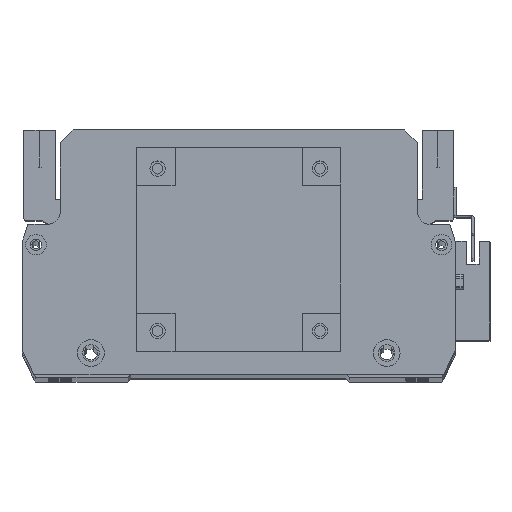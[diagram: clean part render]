
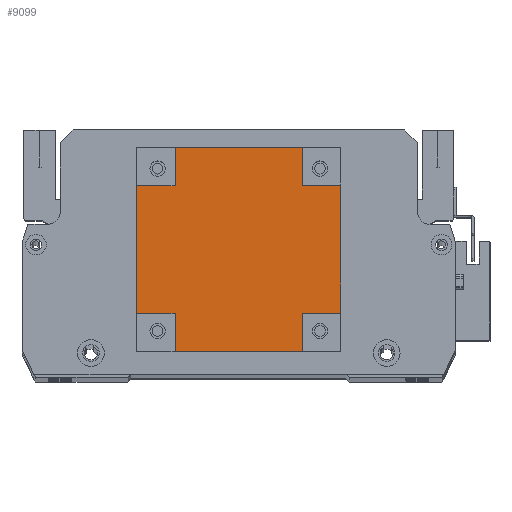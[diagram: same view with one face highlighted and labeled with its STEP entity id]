
A CAD part, top view. The second image highlights one B-rep face of the part: STEP entity #9099.
In plain terms, the highlighted planar face has unit normal (0, 0, 1).
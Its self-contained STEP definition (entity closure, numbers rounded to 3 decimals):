
#277 = LINE ( 'NONE', #11243, #5199 ) ;
#880 = VERTEX_POINT ( 'NONE', #10452 ) ;
#987 = ORIENTED_EDGE ( 'NONE', *, *, #25563, .T. ) ;
#1541 = VECTOR ( 'NONE', #18807, 1000. ) ;
#1737 = CARTESIAN_POINT ( 'NONE',  ( 15., 0., 101.5 ) ) ;
#1740 = ORIENTED_EDGE ( 'NONE', *, *, #14263, .F. ) ;
#1917 = LINE ( 'NONE', #7176, #17540 ) ;
#2421 = DIRECTION ( 'NONE',  ( 0., 1., 0. ) ) ;
#2752 = DIRECTION ( 'NONE',  ( 0., 1., 0. ) ) ;
#3201 = VECTOR ( 'NONE', #13321, 1000. ) ;
#3495 = VECTOR ( 'NONE', #23839, 1000. ) ;
#3705 = ORIENTED_EDGE ( 'NONE', *, *, #19763, .F. ) ;
#4436 = ORIENTED_EDGE ( 'NONE', *, *, #24702, .F. ) ;
#4590 = PLANE ( 'NONE',  #26104 ) ;
#5158 = EDGE_LOOP ( 'NONE', ( #987, #14892, #22001, #12914, #4436, #15545, #8103, #8413, #8115, #15445, #3705, #1740 ) ) ;
#5163 = EDGE_CURVE ( 'NONE', #6745, #880, #25940, .T. ) ;
#5199 = VECTOR ( 'NONE', #13207, 1000. ) ;
#6264 = LINE ( 'NONE', #6388, #23737 ) ;
#6388 = CARTESIAN_POINT ( 'NONE',  ( 65., 0., 101.5 ) ) ;
#6745 = VERTEX_POINT ( 'NONE', #12431 ) ;
#7048 = EDGE_CURVE ( 'NONE', #16321, #18424, #19026, .T. ) ;
#7176 = CARTESIAN_POINT ( 'NONE',  ( 0., 15., 101.5 ) ) ;
#7848 = VERTEX_POINT ( 'NONE', #20687 ) ;
#8103 = ORIENTED_EDGE ( 'NONE', *, *, #26269, .T. ) ;
#8115 = ORIENTED_EDGE ( 'NONE', *, *, #7048, .F. ) ;
#8269 = VERTEX_POINT ( 'NONE', #17927 ) ;
#8413 = ORIENTED_EDGE ( 'NONE', *, *, #8430, .F. ) ;
#8430 = EDGE_CURVE ( 'NONE', #18424, #10707, #6264, .T. ) ;
#8704 = CARTESIAN_POINT ( 'NONE',  ( 0., 0., 101.5 ) ) ;
#9099 = ADVANCED_FACE ( 'NONE', ( #15107 ), #4590, .F. ) ;
#9173 = VECTOR ( 'NONE', #2752, 1000. ) ;
#9214 = DIRECTION ( 'NONE',  ( 1., 0., 0. ) ) ;
#9904 = LINE ( 'NONE', #16667, #16526 ) ;
#10452 = CARTESIAN_POINT ( 'NONE',  ( 15., 80., 101.5 ) ) ;
#10707 = VERTEX_POINT ( 'NONE', #16441 ) ;
#10739 = DIRECTION ( 'NONE',  ( -1., 0., 0. ) ) ;
#10978 = CARTESIAN_POINT ( 'NONE',  ( 15., 80., 101.5 ) ) ;
#11243 = CARTESIAN_POINT ( 'NONE',  ( 65., 80., 101.5 ) ) ;
#11615 = VERTEX_POINT ( 'NONE', #13239 ) ;
#11708 = CARTESIAN_POINT ( 'NONE',  ( 65., 15., 101.5 ) ) ;
#12326 = VERTEX_POINT ( 'NONE', #13651 ) ;
#12429 = EDGE_CURVE ( 'NONE', #15759, #7848, #16572, .T. ) ;
#12431 = CARTESIAN_POINT ( 'NONE',  ( 15., 65., 101.5 ) ) ;
#12479 = DIRECTION ( 'NONE',  ( 0., -1., 0. ) ) ;
#12914 = ORIENTED_EDGE ( 'NONE', *, *, #12949, .T. ) ;
#12949 = EDGE_CURVE ( 'NONE', #25779, #19479, #22581, .T. ) ;
#13075 = CARTESIAN_POINT ( 'NONE',  ( 80., 15., 101.5 ) ) ;
#13207 = DIRECTION ( 'NONE',  ( 0., -1., 0. ) ) ;
#13239 = CARTESIAN_POINT ( 'NONE',  ( 65., 80., 101.5 ) ) ;
#13283 = VECTOR ( 'NONE', #17174, 1000. ) ;
#13321 = DIRECTION ( 'NONE',  ( -1., 0., 0. ) ) ;
#13612 = EDGE_CURVE ( 'NONE', #16321, #8269, #9904, .T. ) ;
#13651 = CARTESIAN_POINT ( 'NONE',  ( 65., 65., 101.5 ) ) ;
#13920 = LINE ( 'NONE', #23299, #13283 ) ;
#14098 = VECTOR ( 'NONE', #9214, 1000. ) ;
#14263 = EDGE_CURVE ( 'NONE', #11615, #12326, #277, .T. ) ;
#14892 = ORIENTED_EDGE ( 'NONE', *, *, #5163, .F. ) ;
#15107 = FACE_OUTER_BOUND ( 'NONE', #5158, .T. ) ;
#15167 = CARTESIAN_POINT ( 'NONE',  ( 15., 0., 101.5 ) ) ;
#15232 = LINE ( 'NONE', #21448, #3201 ) ;
#15445 = ORIENTED_EDGE ( 'NONE', *, *, #13612, .T. ) ;
#15545 = ORIENTED_EDGE ( 'NONE', *, *, #12429, .F. ) ;
#15759 = VERTEX_POINT ( 'NONE', #15167 ) ;
#15833 = CARTESIAN_POINT ( 'NONE',  ( 0., 0., 101.5 ) ) ;
#16321 = VERTEX_POINT ( 'NONE', #13075 ) ;
#16441 = CARTESIAN_POINT ( 'NONE',  ( 65., 0., 101.5 ) ) ;
#16526 = VECTOR ( 'NONE', #2421, 1000. ) ;
#16572 = LINE ( 'NONE', #1737, #21318 ) ;
#16667 = CARTESIAN_POINT ( 'NONE',  ( 80., 0., 101.5 ) ) ;
#17174 = DIRECTION ( 'NONE',  ( 1., 0., 0. ) ) ;
#17540 = VECTOR ( 'NONE', #19269, 1000. ) ;
#17927 = CARTESIAN_POINT ( 'NONE',  ( 80., 65., 101.5 ) ) ;
#18052 = DIRECTION ( 'NONE',  ( 0., 1., 0. ) ) ;
#18166 = CARTESIAN_POINT ( 'NONE',  ( 0., 65., 101.5 ) ) ;
#18200 = DIRECTION ( 'NONE',  ( -1., 0., 0. ) ) ;
#18397 = VECTOR ( 'NONE', #18200, 1000. ) ;
#18424 = VERTEX_POINT ( 'NONE', #11708 ) ;
#18807 = DIRECTION ( 'NONE',  ( 0., -1., 0. ) ) ;
#19026 = LINE ( 'NONE', #26289, #18397 ) ;
#19036 = LINE ( 'NONE', #15833, #3495 ) ;
#19269 = DIRECTION ( 'NONE',  ( -1., 0., 0. ) ) ;
#19479 = VERTEX_POINT ( 'NONE', #26397 ) ;
#19541 = LINE ( 'NONE', #21286, #14098 ) ;
#19763 = EDGE_CURVE ( 'NONE', #12326, #8269, #19541, .T. ) ;
#20687 = CARTESIAN_POINT ( 'NONE',  ( 15., 15., 101.5 ) ) ;
#21286 = CARTESIAN_POINT ( 'NONE',  ( 65., 65., 101.5 ) ) ;
#21318 = VECTOR ( 'NONE', #18052, 1000. ) ;
#21448 = CARTESIAN_POINT ( 'NONE',  ( 0., 80., 101.5 ) ) ;
#22001 = ORIENTED_EDGE ( 'NONE', *, *, #26072, .F. ) ;
#22581 = LINE ( 'NONE', #22901, #1541 ) ;
#22855 = DIRECTION ( 'NONE',  ( 0., 0., -1. ) ) ;
#22901 = CARTESIAN_POINT ( 'NONE',  ( 0., 0., 101.5 ) ) ;
#23299 = CARTESIAN_POINT ( 'NONE',  ( 0., 65., 101.5 ) ) ;
#23737 = VECTOR ( 'NONE', #12479, 1000. ) ;
#23839 = DIRECTION ( 'NONE',  ( 1., 0., 0. ) ) ;
#24702 = EDGE_CURVE ( 'NONE', #7848, #19479, #1917, .T. ) ;
#25563 = EDGE_CURVE ( 'NONE', #11615, #880, #15232, .T. ) ;
#25779 = VERTEX_POINT ( 'NONE', #18166 ) ;
#25940 = LINE ( 'NONE', #10978, #9173 ) ;
#26072 = EDGE_CURVE ( 'NONE', #25779, #6745, #13920, .T. ) ;
#26104 = AXIS2_PLACEMENT_3D ( 'NONE', #8704, #22855, #10739 ) ;
#26269 = EDGE_CURVE ( 'NONE', #15759, #10707, #19036, .T. ) ;
#26289 = CARTESIAN_POINT ( 'NONE',  ( 80., 15., 101.5 ) ) ;
#26397 = CARTESIAN_POINT ( 'NONE',  ( 0., 15., 101.5 ) ) ;
